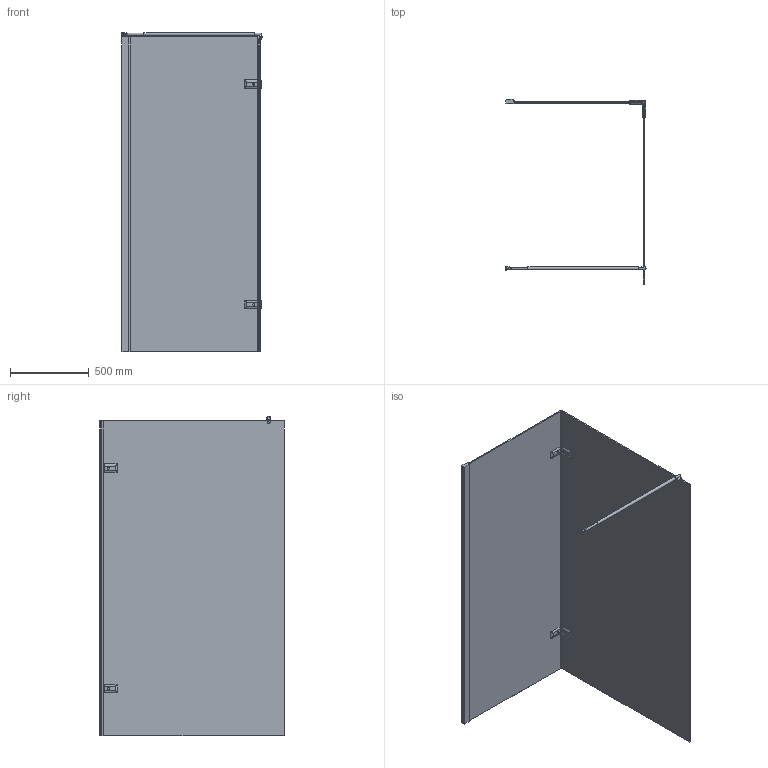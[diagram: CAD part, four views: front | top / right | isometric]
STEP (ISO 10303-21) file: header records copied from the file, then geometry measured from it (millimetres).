
FILE_DESCRIPTION(/* description */ (''),/* implementation_level */ '2;1');
FILE_NAME(/* name */ 'E:\Работа\Сергей\Душевые кабинки\! Работа\!!!!\50\TREND DOOR GK-882NGP\TREND DOOR GK-882NGP левая модель\TREND DOOR GK-882NGP ЛЕВАЯ-3D.stp',/* time_stamp */ '2018-11-06T21:32:46+03:00',/* author */ ('PC'),/* organization */ (''),/* preprocessor_version */ 'ST-DEVELOPER v15.2',/* originating_system */ 'Autodesk Inventor 2014',/* authorisation */ '');
FILE_SCHEMA (('CONFIG_CONTROL_DESIGN'));
Length unit declared in the file: millimetre
Products named in the file (1): TREND DOOR GK-882NGP ЛЕВАЯ-3D
Bounding box: 890.14 x 1173.8 x 2030.5 mm (x, y, z)
Volume: 34581438.7 mm3; surface area: 8376931.9 mm2
Topology: 3 solids, 3 shells, 179 faces, 470 edges, 292 vertices
Faces by surface type: plane 83, cylinder 51, bspline 25, torus 14, sphere 6
Full cylindrical faces by diameter (mm): 15 x2, 20 x3, 26 x1
Entity records: 6982 total; most frequent: CARTESIAN_POINT 2612, ORIENTED_EDGE 860, DIRECTION 814, EDGE_CURVE 430, VERTEX_POINT 283, AXIS2_PLACEMENT_3D 281, LINE 252, VECTOR 252
